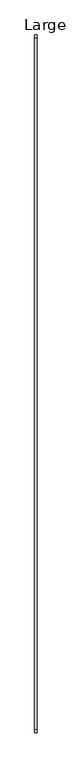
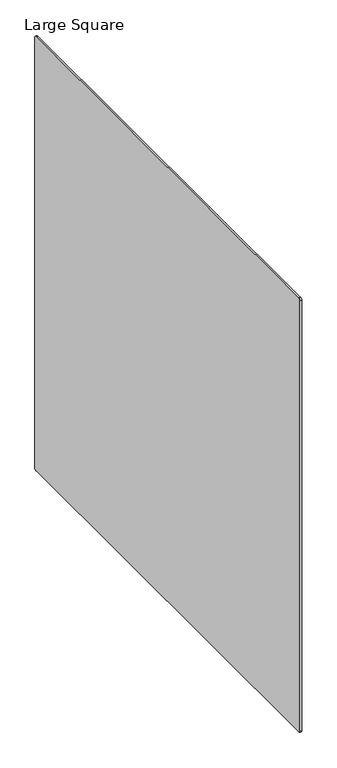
"""IFC4 building model written with IfcOpenShell, lengths in millimetres: furniture geometry, PolyVision_Accessory_Board_Motif : Large Square."""

from ifc_helpers import new_model, si_unit, point, frame, frame_2d, origin, place, context, project, spatial, polyline, circle_curve, trimmed, segment, composite_curve, outline, extrude, source, transform, mapped, element, save


def large_square_09cbe10d(model_context):
    return source(origin(), model_context, "Body", "SweptSolid", [
        extrude(outline(composite_curve([segment(polyline([(-859.0, 1251.6), (281.0, 1251.6)]), True, "CONTINUOUS"), segment(trimmed(circle_curve(frame_2d((281.0, 1246.6)), 5.0), [point((281.0, 1251.6))], [point((286.0, 1246.6))], False, "CARTESIAN"), True, "CONTINUOUS"), segment(polyline([(286.0, 1246.6), (286.0, 106.6)]), True, "CONTINUOUS"), segment(trimmed(circle_curve(frame_2d((281.0, 106.6)), 5.0), [point((286.0, 106.6))], [point((281.0, 101.6))], False, "CARTESIAN"), True, "CONTINUOUS"), segment(polyline([(281.0, 101.6), (-859.0, 101.6)]), True, "CONTINUOUS"), segment(trimmed(circle_curve(frame_2d((-859.0, 106.6)), 5.0), [point((-859.0, 101.6))], [point((-864.0, 106.6))], False, "CARTESIAN"), True, "CONTINUOUS"), segment(polyline([(-864.0, 106.6), (-864.0, 1246.6)]), True, "CONTINUOUS"), segment(trimmed(circle_curve(frame_2d((-859.0, 1246.6)), 5.0), [point((-864.0, 1246.6))], [point((-859.0, 1251.6))], False, "CARTESIAN"), True, "CONTINUOUS")], self_intersect=False)), frame((-4.0, 0.0, 0.0), z_axis=(1.0, 0.0, 0.0), x_axis=(0.0, 1.0, 0.0)), (0.0, 0.0, 1.0), 4.0),
    ])


if __name__ == "__main__":
    model = new_model("IFC4")
    model_context = context("Model", 3, world=origin())
    ifc_project = project(units=[si_unit("LENGTHUNIT", "METRE", prefix="MILLI")], contexts=[model_context])
    site = spatial("IfcSite", under=ifc_project)
    building = spatial("IfcBuilding", under=site)
    placement = place(None, origin())
    large_square_shape = large_square_09cbe10d(model_context)
    element("IfcFurniture", 1, ObjectType="PolyVision_Accessory_Board_Motif : Large Square", at=placement, inside=building, context=model_context, shape_type="MappedRepresentation", body=[
        mapped(large_square_shape, transform((0.0, 0.0, 0.0), x_axis=(1.0, 0.0, 0.0), y_axis=(0.0, 1.0, 0.0), z_axis=(0.0, 0.0, 1.0))),
    ])
    save(model, "model.ifc")
